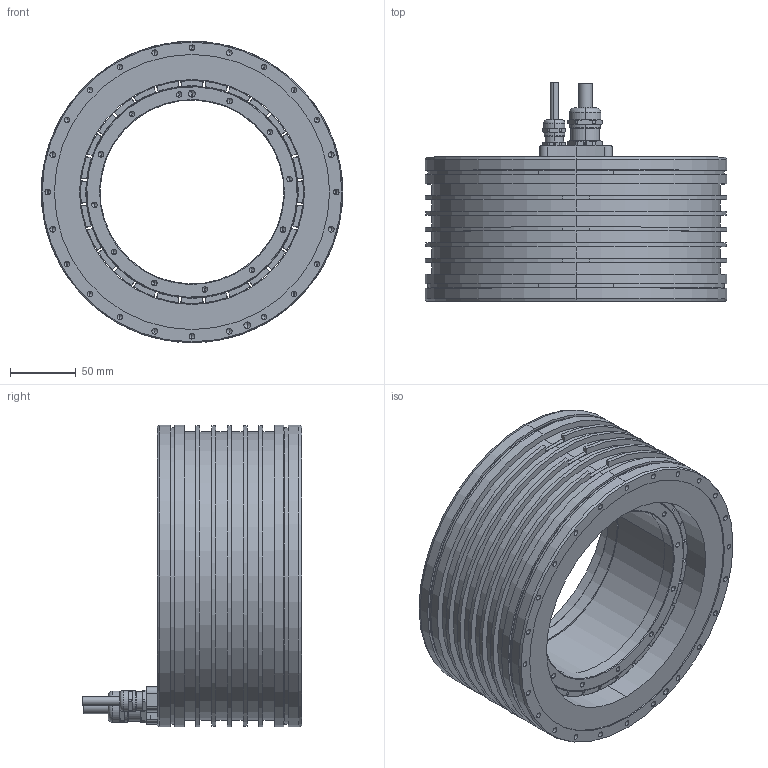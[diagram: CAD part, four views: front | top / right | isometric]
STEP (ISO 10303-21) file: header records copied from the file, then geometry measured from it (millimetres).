
FILE_DESCRIPTION (( 'STEP AP214' ), '1' );
FILE_NAME ('TORQUE KIT QMT LA 230-110-I-AX.STEP', '2025-09-08T14:12:02', ( '' ), ( '' ), 'SwSTEP 2.0', 'SolidWorks 2023', '' );
FILE_SCHEMA (( 'AUTOMOTIVE_DESIGN' ));
Length unit declared in the file: millimetre
Products named in the file (21): Rotor Ring; Housing; Cable Clamp; Cable Gland; Screw; Rotor Glued; Magnet; Cable; Stator; Resin; Cable Connection; TORQUE KIT QMT LA 230-110-I-AX; Rotor; Housing-BO; Cooling Ring
Assembly tree (47 placements, depth 6):
  TORQUE KIT QMT LA 230-110-I-AX
    Stator
      Stator
        Housing
          Housing-BO
            Cooling Ring
        Resin
        Cable Connection
          Cable Connection
          Cable
          Cable
      Cable Clamp
        Cable Clamp
        Cable Gland
        Cable Gland
      Screw  x2
    Rotor
      Rotor Glued
        Rotor Ring
        Magnet  x14
        Magnet  x14
Bounding box: 230 x 167.1 x 230 mm (x, y, z)
Volume: 2299183.4 mm3; surface area: 558379.6 mm2
Topology: 39 solids, 39 shells, 1743 faces, 4075 edges, 2276 vertices
Faces by surface type: cylinder 767, plane 324, sphere 280, cone 236, torus 136
Entity records: 34606 total; most frequent: CARTESIAN_POINT 4936, DIRECTION 4921, ORIENTED_EDGE 4138, EDGE_CURVE 2069, AXIS2_PLACEMENT_3D 2012, VERTEX_POINT 1299, EDGE_LOOP 1058, CIRCLE 1044
